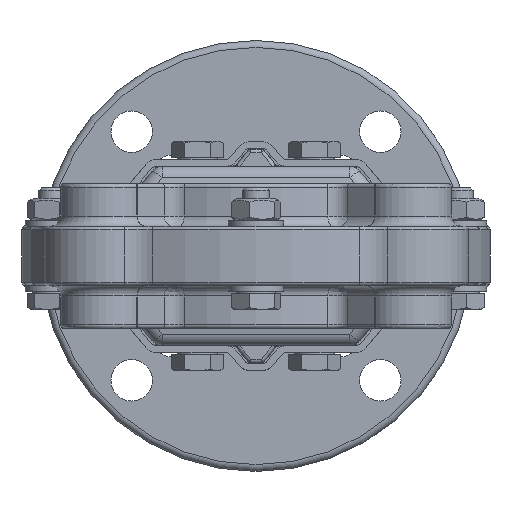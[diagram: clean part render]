
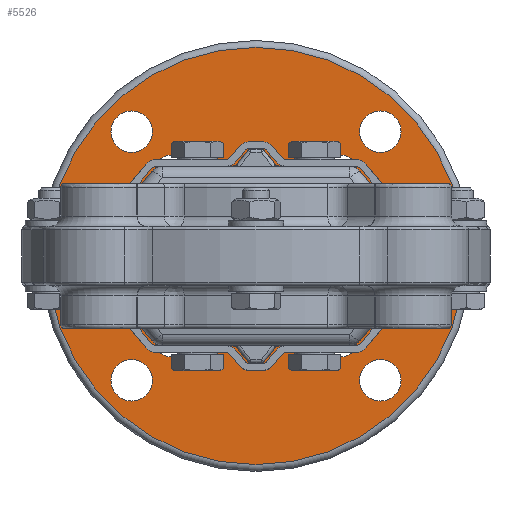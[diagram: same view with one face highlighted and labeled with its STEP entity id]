
A CAD part, front view. The second image highlights one B-rep face of the part: STEP entity #5526.
In plain terms, the highlighted planar face has unit normal (0, -1, 0).
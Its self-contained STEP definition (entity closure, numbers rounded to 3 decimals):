
#2222=FACE_BOUND('',#10158,.T.);
#2223=FACE_BOUND('',#10159,.T.);
#2224=FACE_BOUND('',#10160,.T.);
#2225=FACE_BOUND('',#10161,.T.);
#2226=FACE_BOUND('',#10162,.T.);
#2227=FACE_BOUND('',#10163,.T.);
#2228=FACE_BOUND('',#10164,.T.);
#2229=FACE_BOUND('',#10165,.T.);
#2230=FACE_BOUND('',#10166,.T.);
#2231=FACE_BOUND('',#10167,.T.);
#3574=CIRCLE('',#34917,4.5);
#3575=CIRCLE('',#34918,4.5);
#3576=CIRCLE('',#34919,4.5);
#3577=CIRCLE('',#34920,4.5);
#3578=CIRCLE('',#34921,6.);
#3579=CIRCLE('',#34922,6.);
#3580=CIRCLE('',#34923,6.);
#3581=CIRCLE('',#34924,6.);
#3582=CIRCLE('',#34925,27.);
#3583=CIRCLE('',#34926,60.5);
#5526=ADVANCED_FACE('',(#2222,#2223,#2224,#2225,#2226,#2227,#2228,#2229,
#2230,#2231),#6454,.T.);
#6454=PLANE('',#34927);
#10158=EDGE_LOOP('',(#20116));
#10159=EDGE_LOOP('',(#20117));
#10160=EDGE_LOOP('',(#20118));
#10161=EDGE_LOOP('',(#20119));
#10162=EDGE_LOOP('',(#20120));
#10163=EDGE_LOOP('',(#20121));
#10164=EDGE_LOOP('',(#20122));
#10165=EDGE_LOOP('',(#20123));
#10166=EDGE_LOOP('',(#20124));
#10167=EDGE_LOOP('',(#20125));
#20116=ORIENTED_EDGE('',*,*,#28022,.T.);
#20117=ORIENTED_EDGE('',*,*,#28023,.T.);
#20118=ORIENTED_EDGE('',*,*,#28024,.F.);
#20119=ORIENTED_EDGE('',*,*,#28025,.F.);
#20120=ORIENTED_EDGE('',*,*,#28026,.F.);
#20121=ORIENTED_EDGE('',*,*,#28027,.F.);
#20122=ORIENTED_EDGE('',*,*,#28028,.F.);
#20123=ORIENTED_EDGE('',*,*,#28029,.F.);
#20124=ORIENTED_EDGE('',*,*,#28030,.T.);
#20125=ORIENTED_EDGE('',*,*,#28031,.T.);
#23655=VERTEX_POINT('',#59933);
#23656=VERTEX_POINT('',#59935);
#23657=VERTEX_POINT('',#59937);
#23658=VERTEX_POINT('',#59939);
#23659=VERTEX_POINT('',#59941);
#23660=VERTEX_POINT('',#59943);
#23661=VERTEX_POINT('',#59945);
#23662=VERTEX_POINT('',#59947);
#23663=VERTEX_POINT('',#59949);
#23664=VERTEX_POINT('',#59951);
#28022=EDGE_CURVE('',#23655,#23655,#3574,.T.);
#28023=EDGE_CURVE('',#23656,#23656,#3575,.T.);
#28024=EDGE_CURVE('',#23657,#23657,#3576,.T.);
#28025=EDGE_CURVE('',#23658,#23658,#3577,.T.);
#28026=EDGE_CURVE('',#23659,#23659,#3578,.T.);
#28027=EDGE_CURVE('',#23660,#23660,#3579,.T.);
#28028=EDGE_CURVE('',#23661,#23661,#3580,.T.);
#28029=EDGE_CURVE('',#23662,#23662,#3581,.T.);
#28030=EDGE_CURVE('',#23663,#23663,#3582,.T.);
#28031=EDGE_CURVE('',#23664,#23664,#3583,.T.);
#34917=AXIS2_PLACEMENT_3D('',#59932,#42499,#42500);
#34918=AXIS2_PLACEMENT_3D('',#59934,#42501,#42502);
#34919=AXIS2_PLACEMENT_3D('',#59936,#42503,#42504);
#34920=AXIS2_PLACEMENT_3D('',#59938,#42505,#42506);
#34921=AXIS2_PLACEMENT_3D('',#59940,#42507,#42508);
#34922=AXIS2_PLACEMENT_3D('',#59942,#42509,#42510);
#34923=AXIS2_PLACEMENT_3D('',#59944,#42511,#42512);
#34924=AXIS2_PLACEMENT_3D('',#59946,#42513,#42514);
#34925=AXIS2_PLACEMENT_3D('',#59948,#42515,#42516);
#34926=AXIS2_PLACEMENT_3D('',#59950,#42517,#42518);
#34927=AXIS2_PLACEMENT_3D('',#59952,#42519,#42520);
#42499=DIRECTION('',(0.,1.,0.));
#42500=DIRECTION('',(0.,0.,1.));
#42501=DIRECTION('',(0.,1.,0.));
#42502=DIRECTION('',(1.,0.,0.));
#42503=DIRECTION('',(0.,-1.,0.));
#42504=DIRECTION('',(0.,0.,-1.));
#42505=DIRECTION('',(0.,-1.,0.));
#42506=DIRECTION('',(0.,0.,-1.));
#42507=DIRECTION('',(0.,-1.,0.));
#42508=DIRECTION('',(0.,0.,-1.));
#42509=DIRECTION('',(0.,-1.,0.));
#42510=DIRECTION('',(0.,0.,-1.));
#42511=DIRECTION('',(0.,-1.,0.));
#42512=DIRECTION('',(0.,0.,-1.));
#42513=DIRECTION('',(0.,-1.,0.));
#42514=DIRECTION('',(0.,0.,-1.));
#42515=DIRECTION('',(0.,1.,0.));
#42516=DIRECTION('',(0.,0.,-1.));
#42517=DIRECTION('',(0.,-1.,0.));
#42518=DIRECTION('',(0.,0.,-1.));
#42519=DIRECTION('',(0.,-1.,0.));
#42520=DIRECTION('',(0.,0.,-1.));
#59932=CARTESIAN_POINT('',(-24.749,270.,24.749));
#59933=CARTESIAN_POINT('',(-24.749,270.,29.249));
#59934=CARTESIAN_POINT('',(24.749,270.,24.749));
#59935=CARTESIAN_POINT('',(29.249,270.,24.749));
#59936=CARTESIAN_POINT('',(24.749,270.,-24.749));
#59937=CARTESIAN_POINT('',(24.749,270.,-29.249));
#59938=CARTESIAN_POINT('',(-24.749,270.,-24.749));
#59939=CARTESIAN_POINT('',(-24.749,270.,-29.249));
#59940=CARTESIAN_POINT('',(-36.062,270.,36.062));
#59941=CARTESIAN_POINT('',(-36.062,270.,30.062));
#59942=CARTESIAN_POINT('',(36.062,270.,36.062));
#59943=CARTESIAN_POINT('',(36.062,270.,30.062));
#59944=CARTESIAN_POINT('',(-36.062,270.,-36.062));
#59945=CARTESIAN_POINT('',(-36.062,270.,-42.062));
#59946=CARTESIAN_POINT('',(36.062,270.,-36.062));
#59947=CARTESIAN_POINT('',(36.062,270.,-42.062));
#59948=CARTESIAN_POINT('',(0.,270.,0.));
#59949=CARTESIAN_POINT('',(0.,270.,-27.));
#59950=CARTESIAN_POINT('',(0.,270.,0.));
#59951=CARTESIAN_POINT('',(0.,270.,-60.5));
#59952=CARTESIAN_POINT('',(0.,270.,0.));
